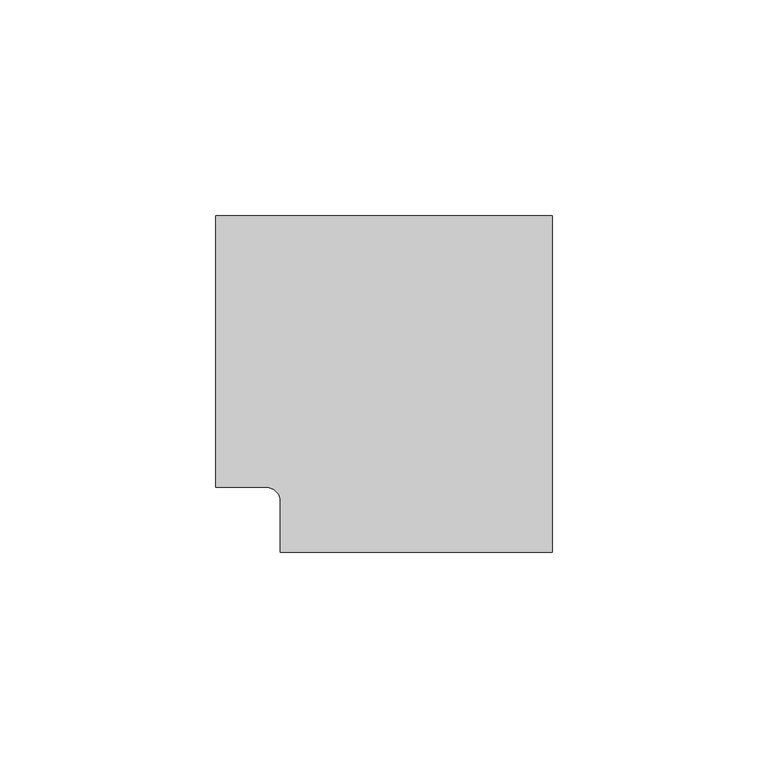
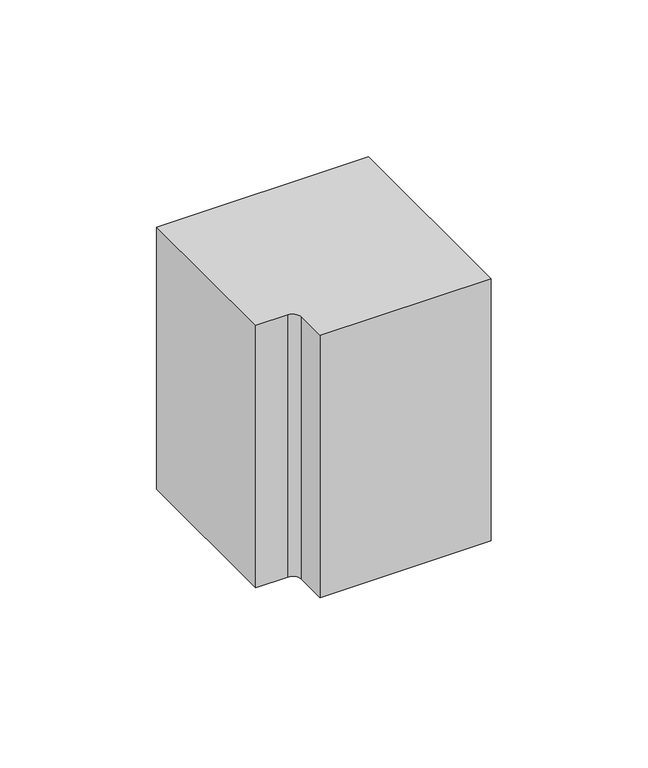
"""IFC4 building model written with IfcOpenShell, lengths in millimetres: proxy geometry, Внутренний_угол_КМВ : Внутренний угол КМВ 100х60."""

from ifc_helpers import new_model, si_unit, point, frame_2d, origin, origin_with_axes, place, context, project, spatial, polyline, circle_curve, trimmed, segment, composite_curve, outline, extrude, source, transform, mapped, element, save


def generic_models_53247dfa(model_context):
    return source(origin(), model_context, "Body", "SweptSolid", [
        extrude(outline(composite_curve([segment(polyline([(-15.0, 0.0), (-15.0, 62.9885299), (63.0, 62.9885299), (63.0, -15.0), (0.0, -15.0), (0.0, -3.184906)]), True, "CONTINUOUS"), segment(trimmed(circle_curve(frame_2d((-3.184906, -3.184906)), 3.184906), [point((0.0, -3.184906))], [point((-3.184906, 0.0))], True, "CARTESIAN"), True, "CONTINUOUS"), segment(polyline([(-3.184906, 0.0), (-15.0, 0.0)]), True, "CONTINUOUS")], self_intersect=False)), origin_with_axes(), (0.0, 0.0, 1.0), 102.0303508),
    ])


if __name__ == "__main__":
    model = new_model("IFC4")
    model_context = context("Model", 3, world=origin())
    ifc_project = project(units=[si_unit("LENGTHUNIT", "METRE", prefix="MILLI")], contexts=[model_context])
    site = spatial("IfcSite", under=ifc_project)
    building = spatial("IfcBuilding", under=site)
    placement = place(None, origin())
    generic_models_shape = generic_models_53247dfa(model_context)
    element("IfcBuildingElementProxy", 1, Name="Внутренний_угол_КМВ : Внутренний угол КМВ 100х60", ObjectType="Внутренний_угол_КМВ : Внутренний угол КМВ 100х60", at=placement, inside=building, context=model_context, shape_type="MappedRepresentation", body=[
        mapped(generic_models_shape, transform((0.0, 0.0, 0.0), x_axis=(1.0, 0.0, 0.0), y_axis=(0.0, 1.0, 0.0), z_axis=(0.0, 0.0, 1.0))),
    ])
    save(model, "model.ifc")
